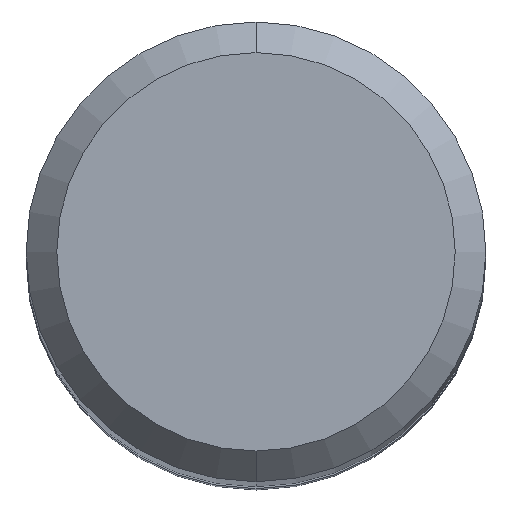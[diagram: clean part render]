
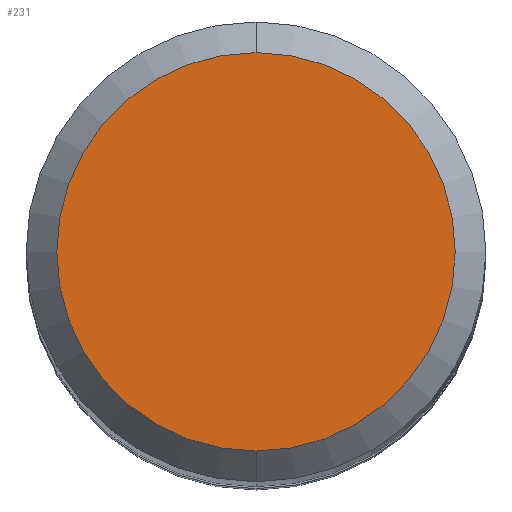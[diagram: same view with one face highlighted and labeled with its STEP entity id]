
A CAD part, top view. The second image highlights one B-rep face of the part: STEP entity #231.
In plain terms, the highlighted free-form (B-spline) face has degree [1, 1] with [2, 2] control points.
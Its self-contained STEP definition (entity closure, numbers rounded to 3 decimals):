
#38=CARTESIAN_POINT('',(0.,0.,0.));
#39=DIRECTION('',(0.,0.,1.));
#40=DIRECTION('',(0.,1.,0.));
#41=AXIS2_PLACEMENT_3D('',#38,#39,#40);
#43=CARTESIAN_POINT('',(0.,0.,0.));
#44=DIRECTION('',(0.,0.,-1.));
#45=DIRECTION('',(0.,1.,0.));
#46=AXIS2_PLACEMENT_3D('',#43,#44,#45);
#138=CARTESIAN_POINT('',(0.,2.6,0.));
#139=VERTEX_POINT('',#138);
#140=CARTESIAN_POINT('',(0.,-2.6,0.));
#141=VERTEX_POINT('',#140);
#222=CARTESIAN_POINT('',(2.704,2.704,0.));
#223=CARTESIAN_POINT('',(-2.704,2.704,0.));
#224=CARTESIAN_POINT('',(2.704,-2.704,0.));
#225=CARTESIAN_POINT('',(-2.704,-2.704,0.));
#226=B_SPLINE_SURFACE_WITH_KNOTS('',1,1,((#222,#223),(#224,#225)),.UNSPECIFIED.,
.F.,.F.,.F.,(2,2),(2,2),(-2.704,2.704),(-2.704,2.704),
.UNSPECIFIED.);
#227=ORIENTED_EDGE('',*,*,#207,.F.);
#228=ORIENTED_EDGE('',*,*,#175,.T.);
#229=EDGE_LOOP('',(#227,#228));
#230=FACE_OUTER_BOUND('',#229,.F.);
#42=CIRCLE('',#41,2.6);
#47=CIRCLE('',#46,2.6);
#175=EDGE_CURVE('',#139,#141,#47,.T.);
#207=EDGE_CURVE('',#139,#141,#42,.T.);
#231=ADVANCED_FACE('',(#230),#226,.F.);
